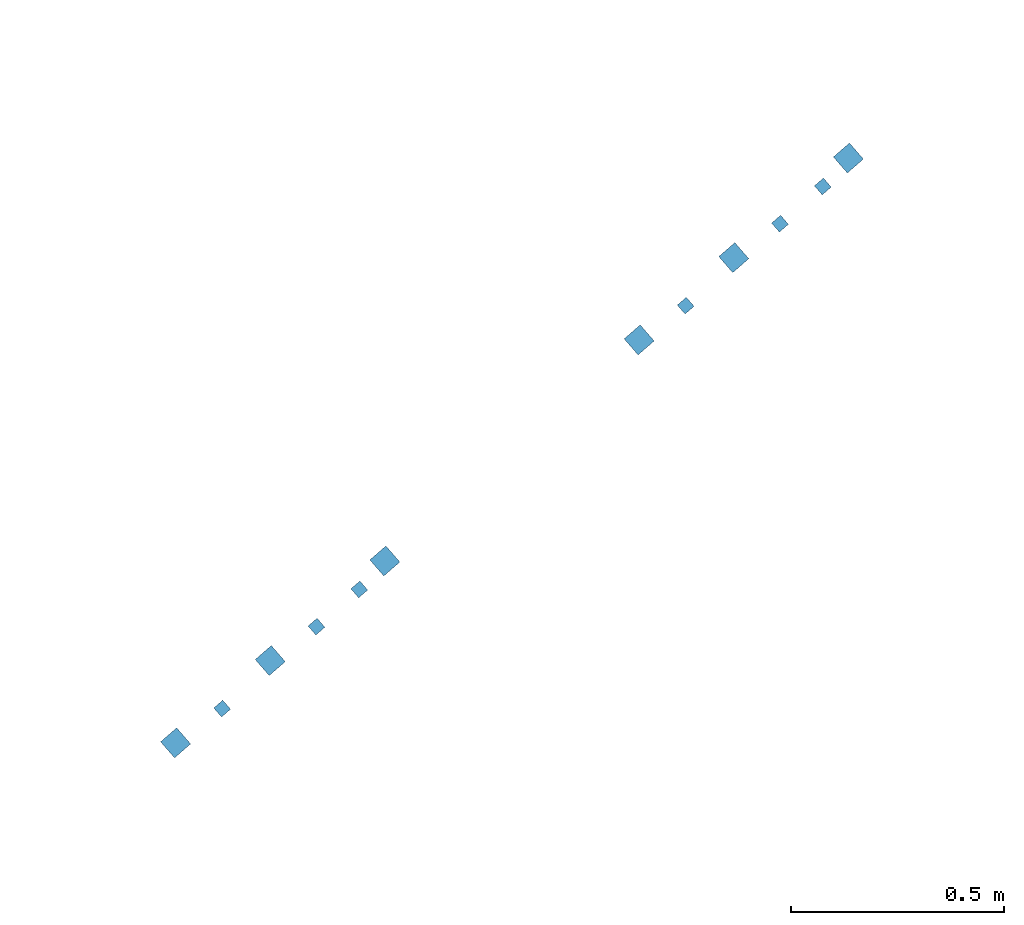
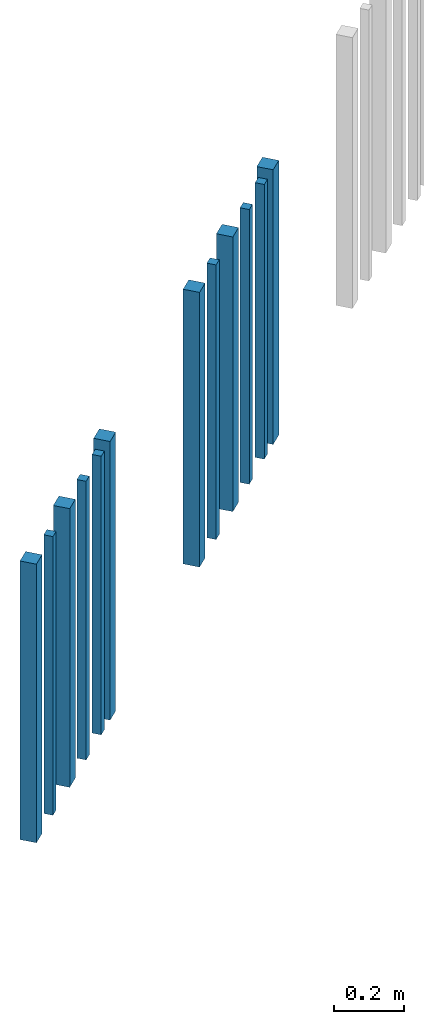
# One storey, part 87 of 124: 12 walls.
"""IFC2X3 building model written with IfcOpenShell, lengths in millimetres."""

from ifc_helpers import new_model, entity, si_unit, converted_unit, derived_unit, money_unit, direction, frame, origin_with_axes, place, context, subcontext, project, spatial, faceted_brep, material, type_object, element, save


model = new_model("IFC2X3")

# Units and contexts
model_context = context("Model", 3, precision=1e-05, world=origin_with_axes(), true_north=direction((0.0, 1.0)))
body_context = subcontext(model_context, "Body", "Model", "MODEL_VIEW")
ifc_project = project(units=[si_unit("LENGTHUNIT", "METRE", prefix="MILLI"), si_unit("AREAUNIT", "SQUARE_METRE"), si_unit("VOLUMEUNIT", "CUBIC_METRE"), converted_unit("PLANEANGLEUNIT", "DEGREE", entity("IfcPlaneAngleMeasure", 0.0174532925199), si_unit("PLANEANGLEUNIT", "RADIAN"), dimensions=[0, 0, 0, 0, 0, 0, 0]), si_unit("SOLIDANGLEUNIT", "STERADIAN"), money_unit("EUR"), converted_unit("TIMEUNIT", "Year", entity("IfcTimeMeasure", 31556926.0), si_unit("TIMEUNIT", "SECOND"), dimensions=[0, 0, 1, 0, 0, 0, 0]), si_unit("MASSUNIT", "GRAM", prefix="KILO"), si_unit("THERMODYNAMICTEMPERATUREUNIT", "DEGREE_CELSIUS"), si_unit("LUMINOUSINTENSITYUNIT", "LUMEN"), si_unit("ENERGYUNIT", "JOULE", prefix="MEGA"), derived_unit("THERMALCONDUCTANCEUNIT", [(si_unit("POWERUNIT", "WATT"), 1), (si_unit("LENGTHUNIT", "METRE"), -1), (si_unit("THERMODYNAMICTEMPERATUREUNIT", "KELVIN"), -1)]), derived_unit("SPECIFICHEATCAPACITYUNIT", [(si_unit("ENERGYUNIT", "JOULE"), 1), (si_unit("MASSUNIT", "GRAM", prefix="KILO"), -1), (si_unit("THERMODYNAMICTEMPERATUREUNIT", "KELVIN"), -1)]), derived_unit("MASSDENSITYUNIT", [(si_unit("MASSUNIT", "GRAM", prefix="KILO"), 1), (si_unit("VOLUMEUNIT", "CUBIC_METRE"), -1)])], contexts=[model_context])

# Site, building, storey
site_placement = place(None, origin_with_axes())
site = spatial("IfcSite", under=ifc_project, at=site_placement, Name="Site", CompositionType="ELEMENT")
building_placement = place(site_placement, origin_with_axes())
building = spatial("IfcBuilding", under=site, at=building_placement, Name="Building", CompositionType="ELEMENT")
storey_placement = place(building_placement, frame((0.0, 0.0, -1615.0), z_axis=(0.0, 0.0, 1.0), x_axis=(1.0, 0.0, 0.0)))
storey = spatial("IfcBuildingStorey", under=building, at=storey_placement, Name="0  korrus", CompositionType="ELEMENT", Elevation=-1615.0)

# Walls
ifc_material = material(Name="Site specified")
wall_type = type_object("IfcWallType", Name="Puitfassaadi ribistik", PredefinedType="NOTDEFINED")
for number, where, z_axis, x_axis, name in (
    (1, (124641.570717, 78371.1050463, 5857.3529502), (0.0, 0.0, 1.0), (0.754709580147, 0.656059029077, 0.0), "Site specified"),
    (2, (124420.440832, 78178.8797698, 5857.3529502), (0.0, 0.0, 1.0), (0.754709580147, 0.656059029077, 0.0), "Site specified"),
):
    element("IfcWall", number, at=place(storey_placement, frame(where, z_axis=z_axis, x_axis=x_axis)), inside=storey, type_object=wall_type, material=ifc_material, Name=name, context=body_context, shape_type="Brep", body=[
        faceted_brep([(14.0, 14.0, 963.647049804), (14.0, 14.0, 0.0), (-14.0, 14.0, 0.0), (-14.0, 14.0, 963.647049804), (14.0, -14.0, 963.647049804), (14.0, -14.0, 0.0), (-14.0, -14.0, 0.0), (-14.0, -14.0, 963.647049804)], [[[0, 1, 2, 3]], [[4, 5, 1, 0]], [[2, 1, 5, 6]], [[3, 2, 6, 7]], [[4, 0, 3, 7]], [[7, 6, 5, 4]]]),
    ])
wall_1_placement = place(storey_placement, frame((124311.33651, 78098.6119723, 5857.3529502), z_axis=(0.0, 0.0, 1.0), x_axis=(0.754709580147, 0.656059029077, 0.0)))
element("IfcWall", 3, at=wall_1_placement, inside=storey, type_object=wall_type, material=ifc_material, Name="Site specified", context=body_context, shape_type="Brep", body=[
    faceted_brep([(25.0, 25.0, 963.647049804), (25.0, 25.0, 0.0), (-25.0, 25.0, 0.0), (-25.0, 25.0, 963.647049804), (25.0, -25.0, 963.647049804), (25.0, -25.0, 0.0), (-25.0, -25.0, 0.0), (-25.0, -25.0, 963.647049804)], [[[0, 1, 2, 3]], [[4, 5, 1, 0]], [[2, 1, 5, 6]], [[3, 2, 6, 7]], [[4, 0, 3, 7]], [[7, 6, 5, 4]]]),
])
wall_2_placement = place(storey_placement, frame((124741.947091, 78458.3608966, 5857.3529502), z_axis=(0.0, 0.0, 1.0), x_axis=(0.754709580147, 0.656059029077, 0.0)))
element("IfcWall", 4, at=wall_2_placement, inside=storey, type_object=wall_type, material=ifc_material, Name="Site specified", context=body_context, shape_type="Brep", body=[
    faceted_brep([(14.0, 14.0, 963.647049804), (14.0, 14.0, 0.0), (-14.0, 14.0, 0.0), (-14.0, 14.0, 963.647049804), (14.0, -14.0, 963.647049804), (14.0, -14.0, 0.0), (-14.0, -14.0, 0.0), (-14.0, -14.0, 963.647049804)], [[[0, 1, 2, 3]], [[4, 5, 1, 0]], [[2, 1, 5, 6]], [[3, 2, 6, 7]], [[4, 0, 3, 7]], [[7, 6, 5, 4]]]),
])
wall_3_placement = place(storey_placement, frame((123224.554465, 77153.886756, 5843.33002248), z_axis=(0.0, 0.0, 1.0), x_axis=(0.754709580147, 0.656059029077, 0.0)))
element("IfcWall", 5, at=wall_3_placement, inside=storey, type_object=wall_type, material=ifc_material, Name="Site specified", context=body_context, shape_type="Brep", body=[
    faceted_brep([(25.0, 25.0, 977.66997752), (25.0, 25.0, 0.0), (-25.0, 25.0, 0.0), (-25.0, 25.0, 977.66997752), (25.0, -25.0, 977.66997752), (25.0, -25.0, 0.0), (-25.0, -25.0, 0.0), (-25.0, -25.0, 977.66997752)], [[[0, 1, 2, 3]], [[4, 5, 1, 0]], [[2, 1, 5, 6]], [[3, 2, 6, 7]], [[4, 0, 3, 7]], [[7, 6, 5, 4]]]),
])
wall_4_placement = place(storey_placement, frame((123333.658787, 77234.1545534, 5843.33002248), z_axis=(0.0, 0.0, 1.0), x_axis=(0.754709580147, 0.656059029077, 0.0)))
element("IfcWall", 6, at=wall_4_placement, inside=storey, type_object=wall_type, material=ifc_material, Name="Site specified", context=body_context, shape_type="Brep", body=[
    faceted_brep([(14.0, 14.0, 977.66997752), (14.0, 14.0, 0.0), (-14.0, 14.0, 0.0), (-14.0, 14.0, 977.66997752), (14.0, -14.0, 977.66997752), (14.0, -14.0, 0.0), (-14.0, -14.0, 0.0), (-14.0, -14.0, 977.66997752)], [[[0, 1, 2, 3]], [[4, 5, 1, 0]], [[2, 1, 5, 6]], [[3, 2, 6, 7]], [[4, 0, 3, 7]], [[7, 6, 5, 4]]]),
])
wall_5_placement = place(storey_placement, frame((123446.43908, 77346.7681091, 5843.33002248), z_axis=(0.0, 0.0, 1.0), x_axis=(0.754709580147, 0.656059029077, 0.0)))
element("IfcWall", 7, at=wall_5_placement, inside=storey, type_object=wall_type, material=ifc_material, Name="Site specified", context=body_context, shape_type="Brep", body=[
    faceted_brep([(25.0, 25.0, 977.66997752), (25.0, 25.0, 0.0), (-25.0, 25.0, 0.0), (-25.0, 25.0, 977.66997752), (25.0, -25.0, 977.66997752), (25.0, -25.0, 0.0), (-25.0, -25.0, 0.0), (-25.0, -25.0, 977.66997752)], [[[0, 1, 2, 3]], [[4, 5, 1, 0]], [[2, 1, 5, 6]], [[3, 2, 6, 7]], [[4, 0, 3, 7]], [[7, 6, 5, 4]]]),
])
for number, where, z_axis, x_axis, name in (
    (8, (123655.165046, 77513.6356803, 5843.33002248), (0.0, 0.0, 1.0), (0.754709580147, 0.656059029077, 0.0), "Site specified"),
    (9, (123554.788672, 77426.3798299, 5843.33002248), (0.0, 0.0, 1.0), (0.754709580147, 0.656059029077, 0.0), "Site specified"),
):
    element("IfcWall", number, at=place(storey_placement, frame(where, z_axis=z_axis, x_axis=x_axis)), inside=storey, type_object=wall_type, material=ifc_material, Name=name, context=body_context, shape_type="Brep", body=[
        faceted_brep([(14.0, 14.0, 977.66997752), (14.0, 14.0, 0.0), (-14.0, 14.0, 0.0), (-14.0, 14.0, 977.66997752), (14.0, -14.0, 977.66997752), (14.0, -14.0, 0.0), (-14.0, -14.0, 0.0), (-14.0, -14.0, 977.66997752)], [[[0, 1, 2, 3]], [[4, 5, 1, 0]], [[2, 1, 5, 6]], [[3, 2, 6, 7]], [[4, 0, 3, 7]], [[7, 6, 5, 4]]]),
    ])
wall_6_placement = place(storey_placement, frame((123715.119942, 77580.3288192, 5843.33002248), z_axis=(0.0, 0.0, 1.0), x_axis=(0.754709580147, 0.656059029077, 0.0)))
element("IfcWall", 10, at=wall_6_placement, inside=storey, type_object=wall_type, material=ifc_material, Name="Site specified", context=body_context, shape_type="Brep", body=[
    faceted_brep([(25.0, 25.0, 977.66997752), (25.0, 25.0, 0.0), (-25.0, 25.0, 0.0), (-25.0, 25.0, 977.66997752), (25.0, -25.0, 977.66997752), (25.0, -25.0, 0.0), (-25.0, -25.0, 0.0), (-25.0, -25.0, 977.66997752)], [[[0, 1, 2, 3]], [[4, 5, 1, 0]], [[2, 1, 5, 6]], [[3, 2, 6, 7]], [[4, 0, 3, 7]], [[7, 6, 5, 4]]]),
])
for number, where, z_axis, x_axis, name in (
    (11, (124801.901987, 78525.0540356, 5857.3529502), (0.0, 0.0, 1.0), (0.754709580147, 0.656059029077, 0.0), "Site specified"),
    (12, (124533.221125, 78291.4933254, 5857.3529502), (0.0, 0.0, 1.0), (0.754709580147, 0.656059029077, 0.0), "Site specified"),
):
    element("IfcWall", number, at=place(storey_placement, frame(where, z_axis=z_axis, x_axis=x_axis)), inside=storey, type_object=wall_type, material=ifc_material, Name=name, context=body_context, shape_type="Brep", body=[
        faceted_brep([(25.0, 25.0, 963.647049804), (25.0, 25.0, 0.0), (-25.0, 25.0, 0.0), (-25.0, 25.0, 963.647049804), (25.0, -25.0, 963.647049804), (25.0, -25.0, 0.0), (-25.0, -25.0, 0.0), (-25.0, -25.0, 963.647049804)], [[[0, 1, 2, 3]], [[4, 5, 1, 0]], [[2, 1, 5, 6]], [[3, 2, 6, 7]], [[4, 0, 3, 7]], [[7, 6, 5, 4]]]),
    ])

save(model, "model.ifc")
